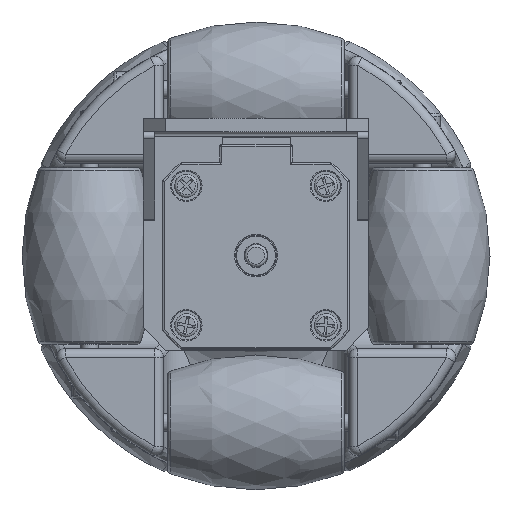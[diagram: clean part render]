
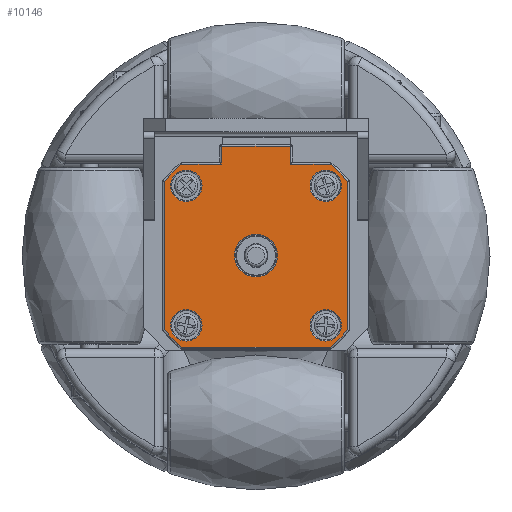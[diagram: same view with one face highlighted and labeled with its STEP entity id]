
A CAD part, top view. The second image highlights one B-rep face of the part: STEP entity #10146.
In plain terms, the highlighted planar face has unit normal (0, 0, 1) as drawn and (0, -1, 0) by its records, which use the part's own axes.
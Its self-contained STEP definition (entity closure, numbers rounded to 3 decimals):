
#692=FACE_BOUND('',#2131,.T.);
#693=FACE_BOUND('',#2132,.T.);
#694=FACE_BOUND('',#2133,.T.);
#695=FACE_BOUND('',#2134,.T.);
#696=FACE_BOUND('',#2135,.T.);
#880=PLANE('',#11537);
#1444=FACE_OUTER_BOUND('',#2130,.T.);
#2130=EDGE_LOOP('',(#8342,#8343,#8344,#8345,#8346,#8347,#8348,#8349,#8350,
#8351,#8352,#8353,#8354,#8355));
#2131=EDGE_LOOP('',(#8356));
#2132=EDGE_LOOP('',(#8357));
#2133=EDGE_LOOP('',(#8358));
#2134=EDGE_LOOP('',(#8359));
#2135=EDGE_LOOP('',(#8360));
#2805=LINE('',#19016,#3540);
#2806=LINE('',#19020,#3541);
#2807=LINE('',#19022,#3542);
#2808=LINE('',#19026,#3543);
#2809=LINE('',#19030,#3544);
#2810=LINE('',#19034,#3545);
#2811=LINE('',#19038,#3546);
#2812=LINE('',#19039,#3547);
#3540=VECTOR('',#13748,1000.);
#3541=VECTOR('',#13751,1000.);
#3542=VECTOR('',#13752,1000.);
#3543=VECTOR('',#13755,1000.);
#3544=VECTOR('',#13758,1000.);
#3545=VECTOR('',#13761,1000.);
#3546=VECTOR('',#13764,1000.);
#3547=VECTOR('',#13765,1000.);
#4276=CIRCLE('',#11538,0.1);
#4277=CIRCLE('',#11539,0.1);
#4278=CIRCLE('',#11540,26.2);
#4279=CIRCLE('',#11541,26.2);
#4280=CIRCLE('',#11542,26.2);
#4281=CIRCLE('',#11543,26.2);
#4282=CIRCLE('',#11544,3.5);
#4283=CIRCLE('',#11545,3.5);
#4284=CIRCLE('',#11546,3.5);
#4285=CIRCLE('',#11547,4.75);
#4286=CIRCLE('',#11548,3.5);
#4968=VERTEX_POINT('',#19012);
#4969=VERTEX_POINT('',#19013);
#4970=VERTEX_POINT('',#19015);
#4971=VERTEX_POINT('',#19017);
#4972=VERTEX_POINT('',#19019);
#4973=VERTEX_POINT('',#19021);
#4974=VERTEX_POINT('',#19023);
#4975=VERTEX_POINT('',#19025);
#4976=VERTEX_POINT('',#19027);
#4977=VERTEX_POINT('',#19029);
#4978=VERTEX_POINT('',#19031);
#4979=VERTEX_POINT('',#19033);
#4980=VERTEX_POINT('',#19035);
#4981=VERTEX_POINT('',#19037);
#4982=VERTEX_POINT('',#19040);
#4983=VERTEX_POINT('',#19042);
#4984=VERTEX_POINT('',#19044);
#4985=VERTEX_POINT('',#19046);
#4986=VERTEX_POINT('',#19048);
#6164=EDGE_CURVE('',#4968,#4969,#4276,.F.);
#6165=EDGE_CURVE('',#4969,#4970,#2805,.F.);
#6166=EDGE_CURVE('',#4970,#4971,#4277,.F.);
#6167=EDGE_CURVE('',#4971,#4972,#2806,.T.);
#6168=EDGE_CURVE('',#4972,#4973,#2807,.F.);
#6169=EDGE_CURVE('',#4973,#4974,#4278,.F.);
#6170=EDGE_CURVE('',#4974,#4975,#2808,.F.);
#6171=EDGE_CURVE('',#4975,#4976,#4279,.F.);
#6172=EDGE_CURVE('',#4976,#4977,#2809,.F.);
#6173=EDGE_CURVE('',#4977,#4978,#4280,.F.);
#6174=EDGE_CURVE('',#4978,#4979,#2810,.F.);
#6175=EDGE_CURVE('',#4979,#4980,#4281,.F.);
#6176=EDGE_CURVE('',#4980,#4981,#2811,.F.);
#6177=EDGE_CURVE('',#4981,#4968,#2812,.F.);
#6178=EDGE_CURVE('',#4982,#4982,#4282,.T.);
#6179=EDGE_CURVE('',#4983,#4983,#4283,.T.);
#6180=EDGE_CURVE('',#4984,#4984,#4284,.T.);
#6181=EDGE_CURVE('',#4985,#4985,#4285,.T.);
#6182=EDGE_CURVE('',#4986,#4986,#4286,.T.);
#8342=ORIENTED_EDGE('',*,*,#6164,.T.);
#8343=ORIENTED_EDGE('',*,*,#6165,.T.);
#8344=ORIENTED_EDGE('',*,*,#6166,.T.);
#8345=ORIENTED_EDGE('',*,*,#6167,.T.);
#8346=ORIENTED_EDGE('',*,*,#6168,.T.);
#8347=ORIENTED_EDGE('',*,*,#6169,.T.);
#8348=ORIENTED_EDGE('',*,*,#6170,.T.);
#8349=ORIENTED_EDGE('',*,*,#6171,.T.);
#8350=ORIENTED_EDGE('',*,*,#6172,.T.);
#8351=ORIENTED_EDGE('',*,*,#6173,.T.);
#8352=ORIENTED_EDGE('',*,*,#6174,.T.);
#8353=ORIENTED_EDGE('',*,*,#6175,.T.);
#8354=ORIENTED_EDGE('',*,*,#6176,.T.);
#8355=ORIENTED_EDGE('',*,*,#6177,.T.);
#8356=ORIENTED_EDGE('',*,*,#6178,.T.);
#8357=ORIENTED_EDGE('',*,*,#6179,.T.);
#8358=ORIENTED_EDGE('',*,*,#6180,.T.);
#8359=ORIENTED_EDGE('',*,*,#6181,.T.);
#8360=ORIENTED_EDGE('',*,*,#6182,.T.);
#10146=ADVANCED_FACE('',(#1444,#692,#693,#694,#695,#696),#880,.F.);
#11537=AXIS2_PLACEMENT_3D('',#19011,#13744,#13745);
#11538=AXIS2_PLACEMENT_3D('',#19014,#13746,#13747);
#11539=AXIS2_PLACEMENT_3D('',#19018,#13749,#13750);
#11540=AXIS2_PLACEMENT_3D('',#19024,#13753,#13754);
#11541=AXIS2_PLACEMENT_3D('',#19028,#13756,#13757);
#11542=AXIS2_PLACEMENT_3D('',#19032,#13759,#13760);
#11543=AXIS2_PLACEMENT_3D('',#19036,#13762,#13763);
#11544=AXIS2_PLACEMENT_3D('',#19041,#13766,#13767);
#11545=AXIS2_PLACEMENT_3D('',#19043,#13768,#13769);
#11546=AXIS2_PLACEMENT_3D('',#19045,#13770,#13771);
#11547=AXIS2_PLACEMENT_3D('',#19047,#13772,#13773);
#11548=AXIS2_PLACEMENT_3D('',#19049,#13774,#13775);
#13744=DIRECTION('center_axis',(0.,1.,0.));
#13745=DIRECTION('ref_axis',(0.,0.,1.));
#13746=DIRECTION('center_axis',(0.,1.,0.));
#13747=DIRECTION('ref_axis',(0.,0.,1.));
#13748=DIRECTION('',(1.,0.,0.));
#13749=DIRECTION('center_axis',(0.,1.,0.));
#13750=DIRECTION('ref_axis',(0.,0.,1.));
#13751=DIRECTION('',(0.,0.,-1.));
#13752=DIRECTION('',(1.,0.,0.));
#13753=DIRECTION('center_axis',(0.,1.,0.));
#13754=DIRECTION('ref_axis',(0.,0.,1.));
#13755=DIRECTION('',(0.,0.,1.));
#13756=DIRECTION('center_axis',(0.,1.,0.));
#13757=DIRECTION('ref_axis',(0.,0.,1.));
#13758=DIRECTION('',(-1.,0.,0.));
#13759=DIRECTION('center_axis',(0.,1.,0.));
#13760=DIRECTION('ref_axis',(0.,0.,1.));
#13761=DIRECTION('',(0.,0.,-1.));
#13762=DIRECTION('center_axis',(0.,1.,0.));
#13763=DIRECTION('ref_axis',(0.,0.,1.));
#13764=DIRECTION('',(1.,0.,0.));
#13765=DIRECTION('',(0.,0.,-1.));
#13766=DIRECTION('center_axis',(0.,1.,0.));
#13767=DIRECTION('ref_axis',(0.,0.,1.));
#13768=DIRECTION('center_axis',(0.,1.,0.));
#13769=DIRECTION('ref_axis',(0.,0.,1.));
#13770=DIRECTION('center_axis',(0.,1.,0.));
#13771=DIRECTION('ref_axis',(0.,0.,1.));
#13772=DIRECTION('center_axis',(0.,1.,0.));
#13773=DIRECTION('ref_axis',(0.,0.,1.));
#13774=DIRECTION('center_axis',(0.,1.,0.));
#13775=DIRECTION('ref_axis',(0.,0.,1.));
#19011=CARTESIAN_POINT('Origin',(0.,0.,0.));
#19012=CARTESIAN_POINT('',(7.7,0.,24.25));
#19013=CARTESIAN_POINT('',(7.6,0.,24.35));
#19014=CARTESIAN_POINT('Origin',(7.6,0.,24.25));
#19015=CARTESIAN_POINT('',(-7.6,0.,24.35));
#19016=CARTESIAN_POINT('',(-7.6,0.,24.35));
#19017=CARTESIAN_POINT('',(-7.7,0.,24.25));
#19018=CARTESIAN_POINT('Origin',(-7.6,0.,24.25));
#19019=CARTESIAN_POINT('',(-7.7,0.,20.35));
#19020=CARTESIAN_POINT('',(-7.7,0.,0.));
#19021=CARTESIAN_POINT('',(-16.502,0.,20.35));
#19022=CARTESIAN_POINT('',(0.,0.,20.35));
#19023=CARTESIAN_POINT('',(-20.35,0.,16.502));
#19024=CARTESIAN_POINT('Origin',(0.,0.,0.));
#19025=CARTESIAN_POINT('',(-20.35,0.,-16.502));
#19026=CARTESIAN_POINT('',(-20.35,0.,0.));
#19027=CARTESIAN_POINT('',(-16.502,0.,-20.35));
#19028=CARTESIAN_POINT('Origin',(0.,0.,0.));
#19029=CARTESIAN_POINT('',(16.502,0.,-20.35));
#19030=CARTESIAN_POINT('',(0.,0.,-20.35));
#19031=CARTESIAN_POINT('',(20.35,0.,-16.502));
#19032=CARTESIAN_POINT('Origin',(0.,0.,0.));
#19033=CARTESIAN_POINT('',(20.35,0.,16.502));
#19034=CARTESIAN_POINT('',(20.35,0.,0.));
#19035=CARTESIAN_POINT('',(16.502,0.,20.35));
#19036=CARTESIAN_POINT('Origin',(0.,0.,0.));
#19037=CARTESIAN_POINT('',(7.7,0.,20.35));
#19038=CARTESIAN_POINT('',(0.,0.,20.35));
#19039=CARTESIAN_POINT('',(7.7,0.,0.));
#19040=CARTESIAN_POINT('',(15.5,0.,12.));
#19041=CARTESIAN_POINT('Origin',(15.5,0.,15.5));
#19042=CARTESIAN_POINT('',(-15.5,0.,-19.));
#19043=CARTESIAN_POINT('Origin',(-15.5,0.,-15.5));
#19044=CARTESIAN_POINT('',(15.5,0.,-19.));
#19045=CARTESIAN_POINT('Origin',(15.5,0.,-15.5));
#19046=CARTESIAN_POINT('',(0.,0.,-4.75));
#19047=CARTESIAN_POINT('Origin',(0.,0.,0.));
#19048=CARTESIAN_POINT('',(-15.5,0.,12.));
#19049=CARTESIAN_POINT('Origin',(-15.5,0.,15.5));
